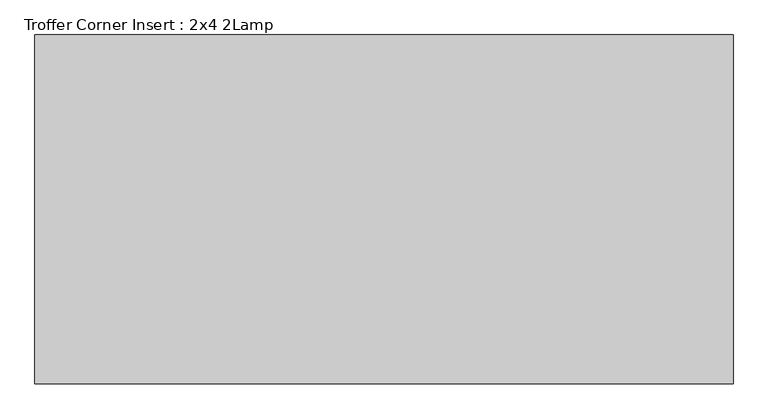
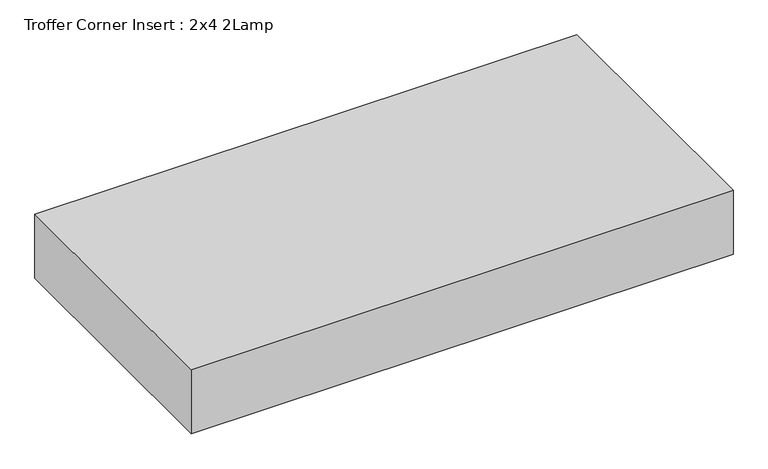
"""IFC4 building model written with IfcOpenShell, lengths in millimetres: light fixture geometry, Troffer Corner Insert : 2x4 2Lamp."""

from ifc_helpers import new_model, si_unit, frame, origin, place, context, project, spatial, polyline, outline, extrude, source, transform, mapped, element, save


def troffer_corner_insert_2x4_2lamp_ce2b6327(model_context):
    return source(origin(), model_context, "Body", "SweptSolid", [
        extrude(outline(polyline([(609.6, 304.8), (609.6, -304.8), (-609.6, -304.8), (-609.6, 304.8), (609.6, 304.8)])), frame((0.0, 0.0, 2438.4), z_axis=(0.0, 0.0, 1.0), x_axis=(1.0, 0.0, 0.0)), (0.0, 0.0, 1.0), 152.4),
    ])


if __name__ == "__main__":
    model = new_model("IFC4")
    model_context = context("Model", 3, world=origin())
    ifc_project = project(units=[si_unit("LENGTHUNIT", "METRE", prefix="MILLI")], contexts=[model_context])
    site = spatial("IfcSite", under=ifc_project)
    building = spatial("IfcBuilding", under=site)
    placement = place(None, origin())
    troffer_corner_insert_2x4_2lamp_shape = troffer_corner_insert_2x4_2lamp_ce2b6327(model_context)
    element("IfcLightFixture", 1, ObjectType="Troffer Corner Insert : 2x4 2Lamp", at=placement, inside=building, context=model_context, shape_type="MappedRepresentation", body=[
        mapped(troffer_corner_insert_2x4_2lamp_shape, transform((0.0, 0.0, 0.0), x_axis=(1.0, 0.0, 0.0), y_axis=(0.0, 1.0, 0.0), z_axis=(0.0, 0.0, 1.0))),
    ])
    save(model, "model.ifc")
